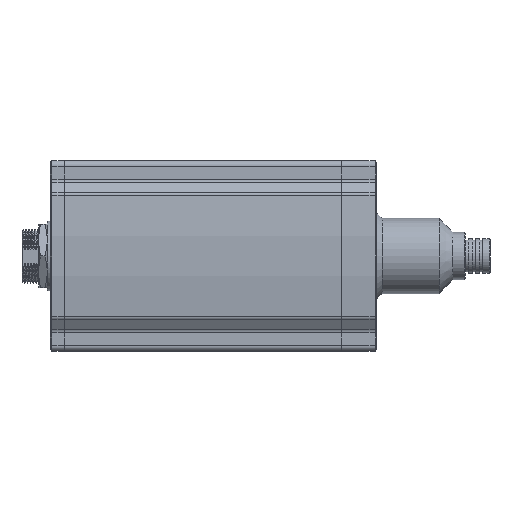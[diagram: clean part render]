
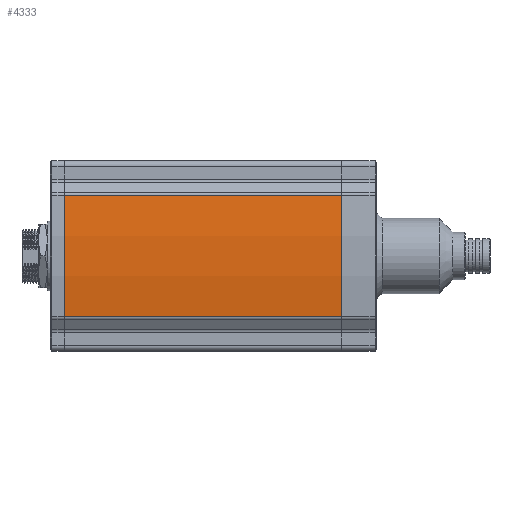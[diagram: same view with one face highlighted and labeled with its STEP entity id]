
A CAD part, front view. The second image highlights one B-rep face of the part: STEP entity #4333.
In plain terms, the highlighted cylindrical face has radius 153.05 mm (diameter 306.1 mm), a partial arc.
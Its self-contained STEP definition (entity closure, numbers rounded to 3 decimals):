
#922=LINE('',#53323,#2015);
#923=LINE('',#53328,#2016);
#2015=VECTOR('',#21889,1.);
#2016=VECTOR('',#21892,1.);
#2976=CYLINDRICAL_SURFACE('',#18179,153.05);
#4333=ADVANCED_FACE('',(#5576),#2976,.T.);
#5576=FACE_OUTER_BOUND('',#6821,.T.);
#6821=EDGE_LOOP('',(#9934,#9935,#9936,#9937));
#9934=ORIENTED_EDGE('',*,*,#14760,.T.);
#9935=ORIENTED_EDGE('',*,*,#14761,.F.);
#9936=ORIENTED_EDGE('',*,*,#14762,.F.);
#9937=ORIENTED_EDGE('',*,*,#14763,.T.);
#12811=VERTEX_POINT('',#53324);
#12812=VERTEX_POINT('',#53325);
#12813=VERTEX_POINT('',#53327);
#12814=VERTEX_POINT('',#53329);
#14760=EDGE_CURVE('',#12811,#12812,#922,.T.);
#14761=EDGE_CURVE('',#12813,#12812,#16594,.T.);
#14762=EDGE_CURVE('',#12814,#12813,#923,.T.);
#14763=EDGE_CURVE('',#12814,#12811,#16595,.T.);
#16594=CIRCLE('',#18177,153.05);
#16595=CIRCLE('',#18178,153.05);
#18177=AXIS2_PLACEMENT_3D('',#53326,#21890,#21891);
#18178=AXIS2_PLACEMENT_3D('',#53330,#21893,#21894);
#18179=AXIS2_PLACEMENT_3D('',#53331,#21895,#21896);
#21889=DIRECTION('',(1.,0.,0.));
#21890=DIRECTION('',(1.,0.,0.));
#21891=DIRECTION('',(0.,-0.991,0.137));
#21892=DIRECTION('',(1.,0.,0.));
#21893=DIRECTION('',(1.,0.,0.));
#21894=DIRECTION('',(0.,-0.991,0.137));
#21895=DIRECTION('',(1.,0.,0.));
#21896=DIRECTION('',(0.,0.,-1.));
#53323=CARTESIAN_POINT('',(-48.,-22.55,-21.021));
#53324=CARTESIAN_POINT('',(-48.,-22.55,-21.021));
#53325=CARTESIAN_POINT('',(48.,-22.55,-21.021));
#53326=CARTESIAN_POINT('',(48.,129.05,0.));
#53327=CARTESIAN_POINT('',(48.,-22.55,21.021));
#53328=CARTESIAN_POINT('',(-48.,-22.55,21.021));
#53329=CARTESIAN_POINT('',(-48.,-22.55,21.021));
#53330=CARTESIAN_POINT('',(-48.,129.05,0.));
#53331=CARTESIAN_POINT('',(-48.,129.05,0.));
